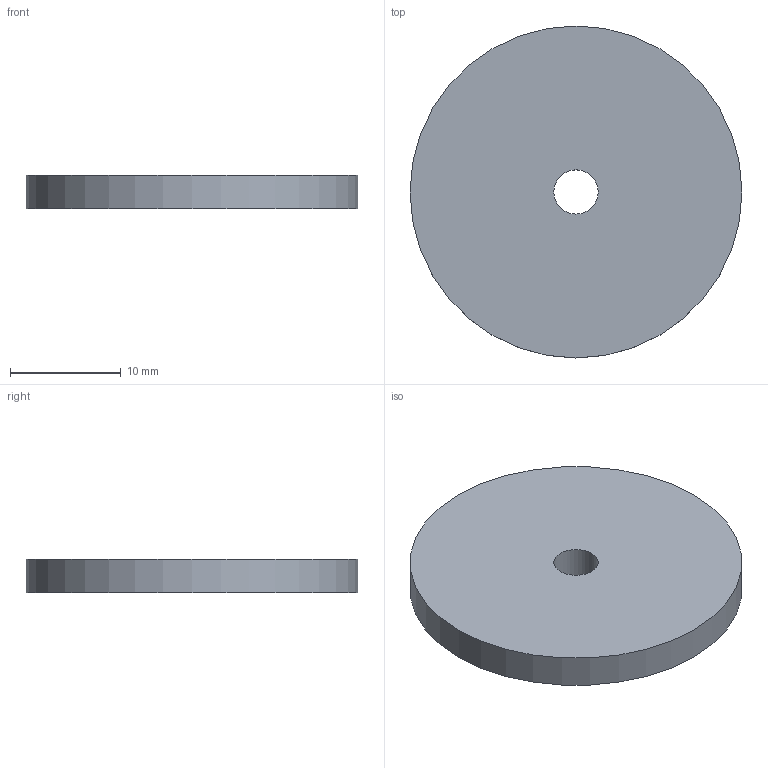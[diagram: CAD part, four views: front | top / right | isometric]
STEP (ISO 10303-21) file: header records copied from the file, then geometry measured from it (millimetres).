
FILE_DESCRIPTION(/* description */ ('Alibre Inc.'),/* implementation_level */ '2;1');
FILE_NAME(/* name */ 'export0',/* time_stamp */ '2013-07-17T09:07:06-06:00',/* author */ (''),/* organization */ (''),/* preprocessor_version */ 'ST-DEVELOPER v14',/* originating_system */ 'Alibre',/* authorisation */ '');
FILE_SCHEMA (('ALIBRE_SCHEMA','CONFIG_CONTROL_DESIGN'));
Length unit declared in the file: centimetre
Products named in the file (1): ID_1
Bounding box: 30 x 30 x 3 mm (x, y, z)
Volume: 2082.9 mm3; surface area: 1709 mm2
Topology: 1 solids, 1 shells, 4 faces, 6 edges, 4 vertices
Faces by surface type: cylinder 2, plane 2
Full cylindrical faces by diameter (mm): 4 x1, 30 x1
Entity records: 464 total; most frequent: INTEGERVALUEPAIR 33, CARTESIAN_POINT 31, DIRECTION 27, REALVALUEPAIR 24, STRINGVALUEPAIR 15, BOOLEANVALUEPAIR 13, AXIS2_PLACEMENT_3D 12, PRODUCTVERSION 9
